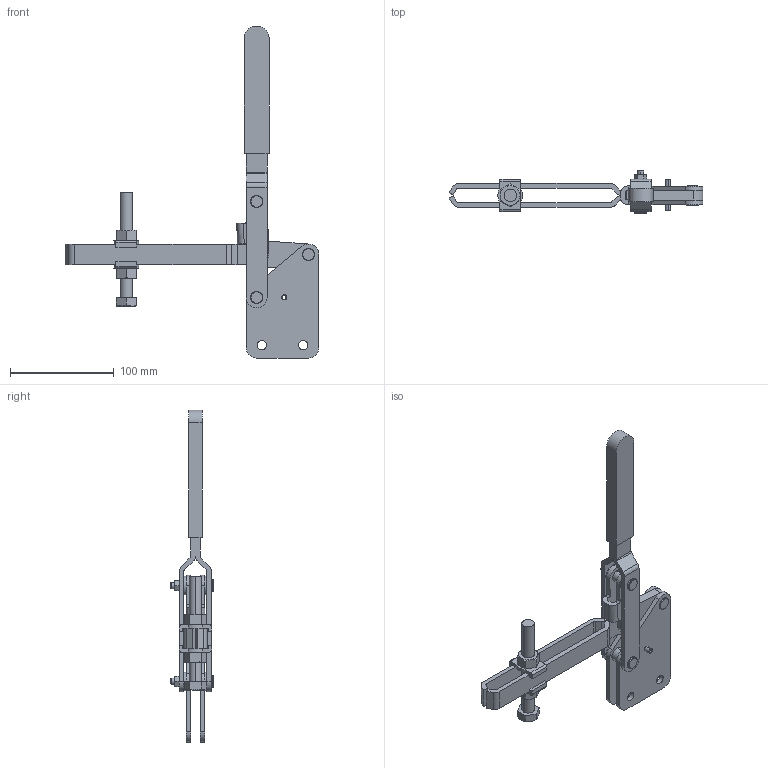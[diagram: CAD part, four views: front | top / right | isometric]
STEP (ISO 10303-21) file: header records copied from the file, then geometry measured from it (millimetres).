
FILE_DESCRIPTION(('CATIA V5 STEP Exchange'),'2;1');
FILE_NAME('D:\Model\toggle\toggle_standard\KJF_045_12S.stp','2005-06-24T05:16:50+00:00',('none'),('none'),'CATIA Version 5 Release 11 (IN-9)','CATIA V5 STEP AP203',' none');
FILE_SCHEMA(('CONFIG_CONTROL_DESIGN'));
Length unit declared in the file: millimetre
Products named in the file (1): Part1
Bounding box: 244.88 x 41.5 x 320.5 mm (x, y, z)
Volume: 210821 mm3; surface area: 104439.5 mm2
Topology: 24 solids, 24 shells, 378 faces, 924 edges, 606 vertices
Faces by surface type: cylinder 168, plane 164, cone 46
Entity records: 10858 total; most frequent: CARTESIAN_POINT 2387, ORIENTED_EDGE 1840, DIRECTION 1398, EDGE_CURVE 920, AXIS2_PLACEMENT_3D 669, VERTEX_POINT 606, EDGE_LOOP 458, VECTOR 448
